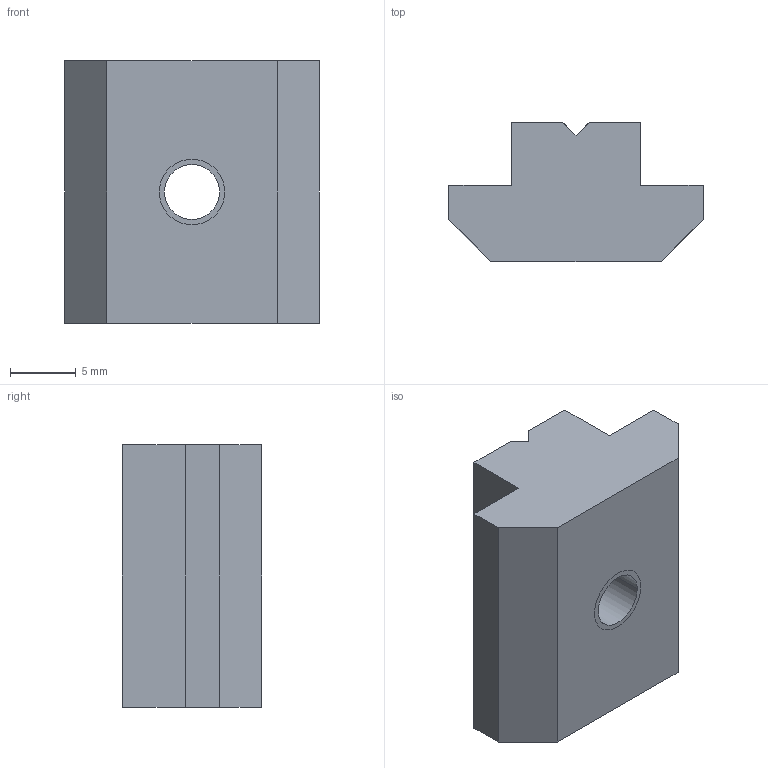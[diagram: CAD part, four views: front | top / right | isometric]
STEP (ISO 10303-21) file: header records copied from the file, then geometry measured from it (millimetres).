
FILE_DESCRIPTION((''),'2;1');
FILE_NAME('DAT0510','2002-12-27T',('Lipro doo'),('Lipro d.o.o.'),'PRO/ENGINEER BY PARAMETRIC TECHNOLOGY CORPORATION, 2001150','PRO/ENGINEER BY PARAMETRIC TECHNOLOGY CORPORATION, 2001150','');
FILE_SCHEMA(('CONFIG_CONTROL_DESIGN'));
Length unit declared in the file: millimetre
Products named in the file (1): DAT0510
Bounding box: 19.4 x 10.6 x 20 mm (x, y, z)
Volume: 2822.2 mm3; surface area: 1705 mm2
Topology: 1 solids, 2 shells, 23 faces, 72 edges, 50 vertices
Faces by surface type: plane 17, cylinder 4, cone 2
Entity records: 854 total; most frequent: CARTESIAN_POINT 174, ORIENTED_EDGE 134, DIRECTION 122, EDGE_CURVE 72, VERTEX_POINT 50, VECTOR 46, LINE 46, AXIS2_PLACEMENT_3D 38
